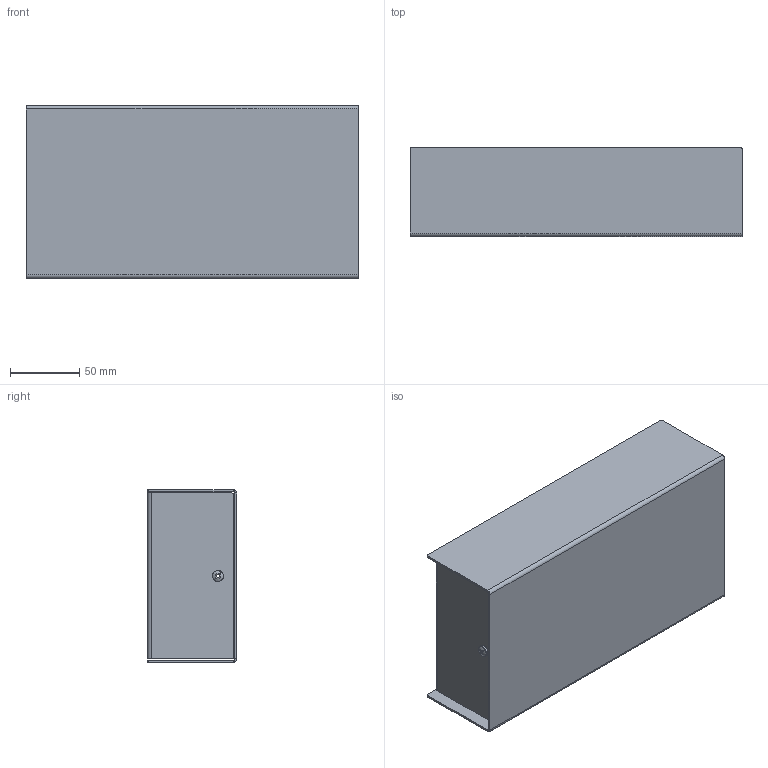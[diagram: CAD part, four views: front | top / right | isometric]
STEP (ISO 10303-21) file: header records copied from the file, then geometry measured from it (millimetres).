
FILE_DESCRIPTION (( 'STEP AP203' ), '1' );
FILE_NAME ('ACCANOPYRE001XX-PER 3D.STEP', '2026-07-08T08:24:33', ( '' ), ( '' ), 'SwSTEP 2.0', 'SolidWorks 2026', '' );
FILE_SCHEMA (( 'CONFIG_CONTROL_DESIGN' ));
Length unit declared in the file: millimetre
Products named in the file (1): ACCANOPYRE001XX-PER 3D
Bounding box: 240 x 64.5 x 125 mm (x, y, z)
Surface area: 191457.1 mm2 (no closed solid volume)
Topology: 0 solids, 14 shells, 136 faces, 597 edges, 452 vertices
Faces by surface type: plane 79, cylinder 37, cone 12, sphere 4, torus 4
Entity records: 6556 total; most frequent: CARTESIAN_POINT 1630, DIRECTION 1047, ORIENTED_EDGE 867, EDGE_CURVE 597, VERTEX_POINT 452, AXIS2_PLACEMENT_3D 373, LINE 301, VECTOR 301
